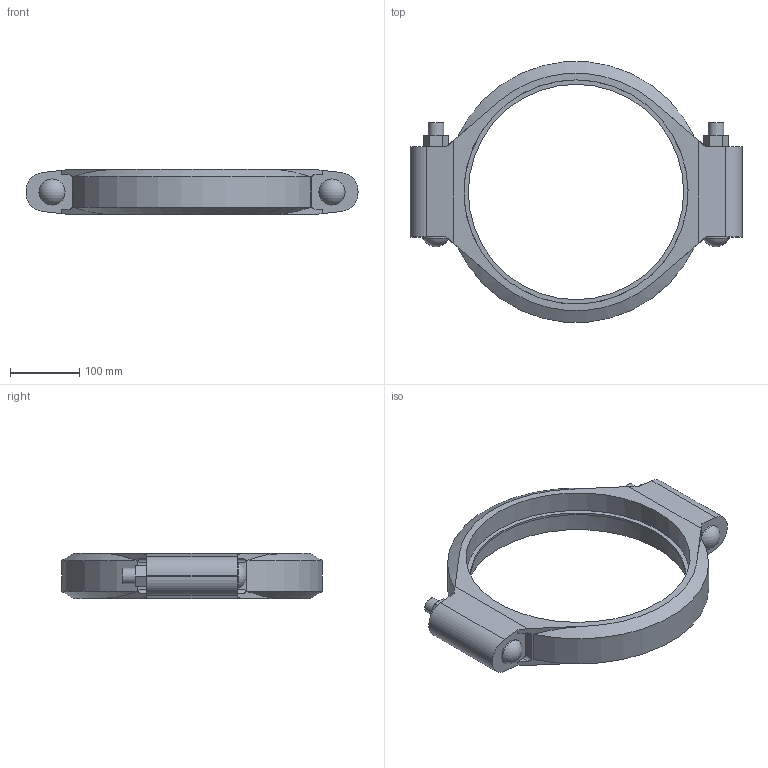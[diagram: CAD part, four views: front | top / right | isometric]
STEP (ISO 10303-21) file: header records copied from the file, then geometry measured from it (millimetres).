
FILE_DESCRIPTION(/* description */ ('VIC COUPLING STYLE 07 RIGID','CAx-IF Rec.Pracs.---Representation and Presentation of Product Manufacturing Information (PMI)---4.0---2014-10-13'),/* implementation_level */ '2;1');
FILE_NAME(/* name */ 'C:\Users\kkamble\Desktop\KIRAN\2022\Updated Couplings\007\Victaulic_IPS_Coupling Rigid_Style 07 (OGS)\Victaulic_IPS_Coupling Rigid_Style 07 (OGS)_12 (300).stp',/* time_stamp */ '2022-03-25T09:57:16+05:00',/* author */ ('jheald'),/* organization */ ('Victaulic'),/* preprocessor_version */ 'ST-DEVELOPER v17.2',/* originating_system */ 'Autodesk Inventor 2019',/* authorisation */ '');
FILE_SCHEMA (('AP242_MANAGED_MODEL_BASED_3D_ENGINEERING_MIM_LF { 1 0 10303 442 1 1 4 }'));
Length unit declared in the file: inch
Products named in the file (1): 07-12.0
Bounding box: 479.55 x 376 x 65.02 mm (x, y, z)
Volume: 2558072.5 mm3; surface area: 288577.3 mm2
Topology: 1 solids, 3 shells, 87 faces, 239 edges, 162 vertices
Faces by surface type: plane 54, cylinder 27, cone 4, sphere 2
Full cylindrical faces by diameter (mm): 22.225 x4, 37.694 x2, 311.15 x1, 323.85 x2
Entity records: 3036 total; most frequent: CARTESIAN_POINT 522, DIRECTION 507, ORIENTED_EDGE 478, EDGE_CURVE 239, AXIS2_PLACEMENT_3D 175, VERTEX_POINT 162, LINE 157, VECTOR 157
